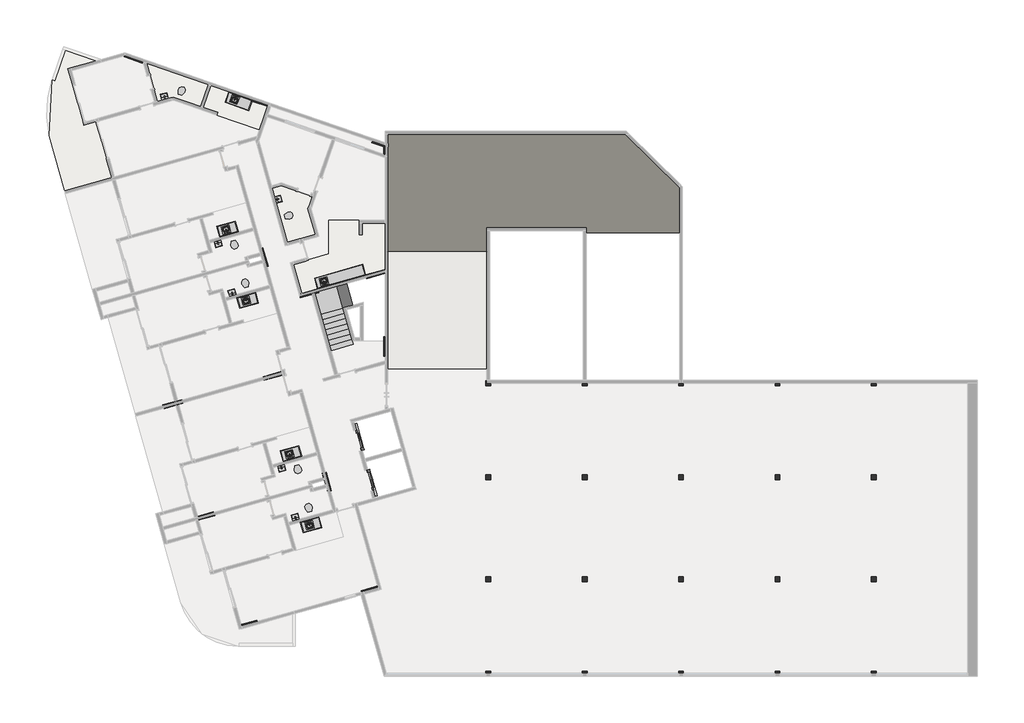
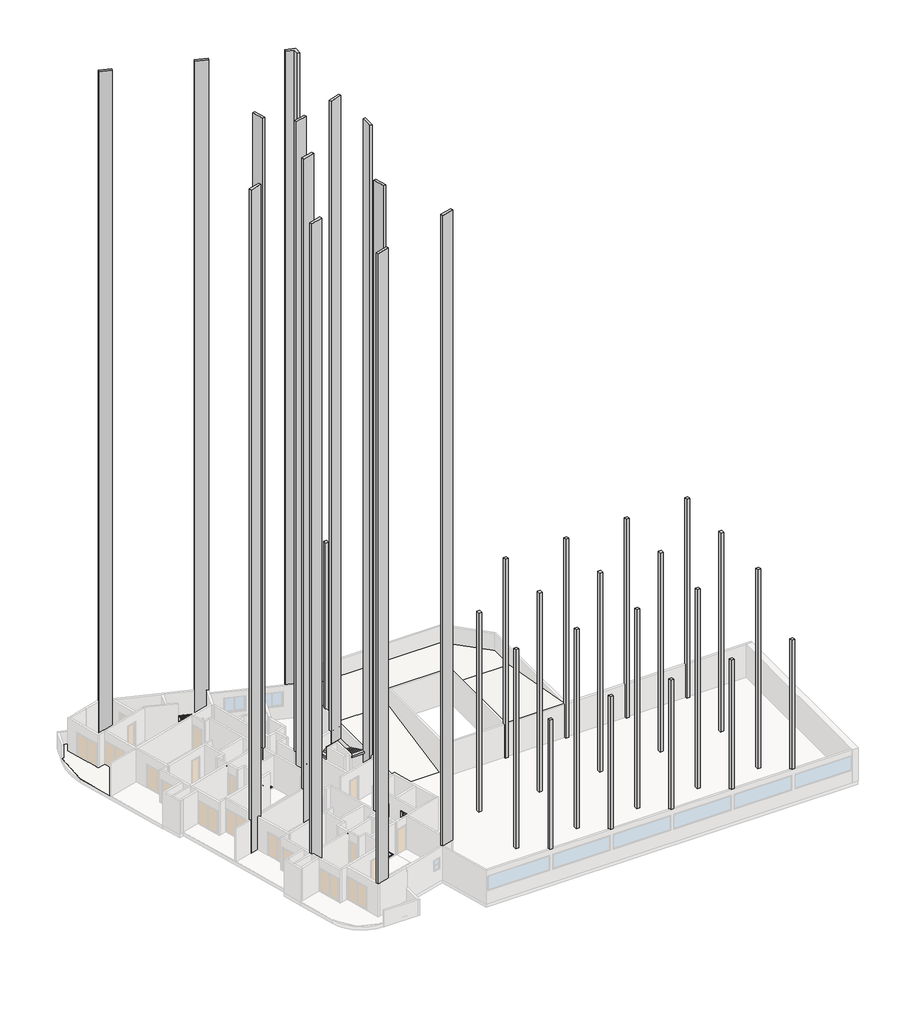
# One storey, part 4 of 4: 34 columns, 18 flow terminals, 8 proxies, 6 slabs, 1 stair flight.
"""IFC4 building model written with IfcOpenShell, lengths in millimetres."""

from ifc_helpers import new_model, si_unit, point, frame, frame_2d, origin, place, context, project, spatial, polyline, circle_curve, trimmed, segment, composite_curve, outline, extrude, faceted_brep, transform, mapped, element, save
from components import specialty_equipment_6c35da8b, specialty_equipment_77dfa124, rf_bancada_cozinha_rf_bancada_cozinha_340fef9f, rf_bancada_cozinha_rf_bancada_cozinha_cfb88ba1, rf_bancada_cozinha_rf_bancada_cozinha_2f873929, rf_bancada_cozinha_rf_bancada_cozinha_798ceddf, flow_terminal_cab7bae2, flow_terminal_3fb7dc42, flow_terminal_e42b9071, flow_terminal_c6e042c4, ap_01_creme_cr37_13e02e03, ap_01_creme_cr37_5ce6e54d

model = new_model("IFC4")

# Units and contexts
model_context = context("Model", 3, world=origin())
ifc_project = project(units=[si_unit("LENGTHUNIT", "METRE", prefix="MILLI")], contexts=[model_context])

# Site, building, storey
site = spatial("IfcSite", under=ifc_project)
building = spatial("IfcBuilding", under=site)
storey = spatial("IfcBuildingStorey", under=building, Name="Garagem 5", Elevation=36250.0)

# Proxies
placement = place(None, origin())
specialty_equipment_shape = specialty_equipment_6c35da8b(model_context)
element("IfcBuildingElementProxy", 1, Name="Porta do elevador : Porta do elevador", ObjectType="Porta do elevador : Porta do elevador", at=placement, inside=storey, context=model_context, shape_type="MappedRepresentation", body=[
    mapped(specialty_equipment_shape, transform((-76594.4337486, 15747.4543727, 36250.0), x_axis=(0.27176796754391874, -0.9623628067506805, 0.0), y_axis=(0.9623628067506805, 0.27176796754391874, 0.0), z_axis=(0.0, 0.0, 1.0))),
])
specialty_equipment_2_shape = specialty_equipment_77dfa124(model_context)
element("IfcBuildingElementProxy", 2, Name="Porta do elevador : Porta do elevador", ObjectType="Porta do elevador : Porta do elevador", at=placement, inside=storey, context=model_context, shape_type="MappedRepresentation", body=[
    mapped(specialty_equipment_2_shape, transform((-75942.1906265, 13437.7836365, 36250.0), x_axis=(-0.27176796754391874, 0.9623628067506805, 0.0), y_axis=(-0.9623628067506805, -0.27176796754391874, 0.0), z_axis=(0.0, 0.0, 1.0))),
])
rf_bancada_cozinha_rf_bancada_cozinha_shape = rf_bancada_cozinha_rf_bancada_cozinha_340fef9f(model_context)
element("IfcBuildingElementProxy", 3, Name="RF_Bancada Cozinha : RF_Bancada Cozinha", ObjectType="RF_Bancada Cozinha : RF_Bancada Cozinha", at=placement, inside=storey, context=model_context, shape_type="MappedRepresentation", body=[
    mapped(rf_bancada_cozinha_rf_bancada_cozinha_shape, transform((-82760.548019, 26451.5820971, 37000.0), x_axis=(-0.9623628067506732, -0.27176796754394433, 0.0), y_axis=(0.27176796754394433, -0.9623628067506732, 0.0), z_axis=(0.0, 0.0, 1.0))),
])
element("IfcBuildingElementProxy", 4, Name="RF_Bancada Cozinha : RF_Bancada Cozinha", ObjectType="RF_Bancada Cozinha : RF_Bancada Cozinha", at=placement, inside=storey, context=model_context, shape_type="MappedRepresentation", body=[
    mapped(rf_bancada_cozinha_rf_bancada_cozinha_shape, transform((-79472.1556117, 14806.9921354, 37000.0), x_axis=(-0.9623628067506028, -0.2717679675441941, 0.0), y_axis=(0.2717679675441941, -0.9623628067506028, 0.0), z_axis=(0.0, 0.0, 1.0))),
])
rf_bancada_cozinha_rf_bancada_cozinha_2_shape = rf_bancada_cozinha_rf_bancada_cozinha_cfb88ba1(model_context)
element("IfcBuildingElementProxy", 5, Name="RF_Bancada Cozinha : RF_Bancada Cozinha", ObjectType="RF_Bancada Cozinha : RF_Bancada Cozinha", at=placement, inside=storey, context=model_context, shape_type="MappedRepresentation", body=[
    mapped(rf_bancada_cozinha_rf_bancada_cozinha_2_shape, transform((-81877.3021245, 23323.9029751, 37000.0), x_axis=(-0.9623628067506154, -0.27176796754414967, 0.0), y_axis=(0.27176796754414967, -0.9623628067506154, 0.0), z_axis=(0.0, 0.0, 1.0))),
])
element("IfcBuildingElementProxy", 6, Name="RF_Bancada Cozinha : RF_Bancada Cozinha", ObjectType="RF_Bancada Cozinha : RF_Bancada Cozinha", at=placement, inside=storey, context=model_context, shape_type="MappedRepresentation", body=[
    mapped(rf_bancada_cozinha_rf_bancada_cozinha_2_shape, transform((-78588.9097172, 11679.3130134, 37000.0), x_axis=(-0.9623628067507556, -0.27176796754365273, 0.0), y_axis=(0.27176796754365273, -0.9623628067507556, 0.0), z_axis=(0.0, 0.0, 1.0))),
])
rf_bancada_cozinha_rf_bancada_cozinha_3_shape = rf_bancada_cozinha_rf_bancada_cozinha_2f873929(model_context)
element("IfcBuildingElementProxy", 7, Name="RF_Bancada Cozinha : RF_Bancada Cozinha", ObjectType="RF_Bancada Cozinha : RF_Bancada Cozinha", at=placement, inside=storey, context=model_context, shape_type="MappedRepresentation", body=[
    mapped(rf_bancada_cozinha_rf_bancada_cozinha_3_shape, transform((-82030.0326121, 33293.9830661, 37000.0), x_axis=(-0.9449109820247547, 0.32732741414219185, 0.0), y_axis=(-0.32732741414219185, -0.9449109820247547, 0.0), z_axis=(0.0, 0.0, 1.0))),
])
rf_bancada_cozinha_rf_bancada_cozinha_4_shape = rf_bancada_cozinha_rf_bancada_cozinha_798ceddf(model_context)
element("IfcBuildingElementProxy", 8, Name="RF_Bancada Cozinha : RF_Bancada Cozinha", ObjectType="RF_Bancada Cozinha : RF_Bancada Cozinha", at=placement, inside=storey, context=model_context, shape_type="MappedRepresentation", body=[
    mapped(rf_bancada_cozinha_rf_bancada_cozinha_4_shape, transform((-76157.6622331, 24197.9763092, 37000.0), x_axis=(-0.9623628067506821, -0.27176796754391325, 0.0), y_axis=(0.27176796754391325, -0.9623628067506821, 0.0), z_axis=(0.0, 0.0, 1.0))),
])

# Columns
element("IfcColumn", 9, ObjectType="M_Concrete-Rectangular-Column : 0.25m", at=placement, inside=storey, context=model_context, shape_type="SweptSolid", body=[
    extrude(outline(polyline([(-69675.8696428, 13852.5140353), (-69675.8696428, 13602.5140353), (-69925.8696428, 13602.5140353), (-69925.8696428, 13852.5140353), (-69675.8696428, 13852.5140353)])), frame((0.0, 0.0, 36250.0), z_axis=(0.0, 0.0, 1.0), x_axis=(1.0, 0.0, 0.0)), (0.0, 0.0, 1.0), 17400.0),
])
element("IfcColumn", 10, ObjectType="M_Concrete-Rectangular-Column : 0.25m", at=placement, inside=storey, context=model_context, shape_type="SweptSolid", body=[
    extrude(outline(polyline([(-59675.8696428, 13852.5140353), (-59675.8696428, 13602.5140353), (-59925.8696428, 13602.5140353), (-59925.8696428, 13852.5140353), (-59675.8696428, 13852.5140353)])), frame((0.0, 0.0, 36250.0), z_axis=(0.0, 0.0, 1.0), x_axis=(1.0, 0.0, 0.0)), (0.0, 0.0, 1.0), 17400.0),
])
element("IfcColumn", 11, ObjectType="M_Concrete-Rectangular-Column : 0.25m", at=placement, inside=storey, context=model_context, shape_type="SweptSolid", body=[
    extrude(outline(polyline([(-54675.8696428, 13852.5140353), (-54675.8696428, 13602.5140353), (-54925.8696428, 13602.5140353), (-54925.8696428, 13852.5140353), (-54675.8696428, 13852.5140353)])), frame((0.0, 0.0, 36250.0), z_axis=(0.0, 0.0, 1.0), x_axis=(1.0, 0.0, 0.0)), (0.0, 0.0, 1.0), 17400.0),
])
element("IfcColumn", 12, ObjectType="M_Concrete-Rectangular-Column : 0.25m", at=placement, inside=storey, context=model_context, shape_type="SweptSolid", body=[
    extrude(outline(polyline([(-49675.8696428, 13852.5140353), (-49675.8696428, 13602.5140353), (-49925.8696428, 13602.5140353), (-49925.8696428, 13852.5140353), (-49675.8696428, 13852.5140353)])), frame((0.0, 0.0, 36250.0), z_axis=(0.0, 0.0, 1.0), x_axis=(1.0, 0.0, 0.0)), (0.0, 0.0, 1.0), 17400.0),
])
element("IfcColumn", 13, ObjectType="M_Concrete-Rectangular-Column : 0.25m", at=placement, inside=storey, context=model_context, shape_type="SweptSolid", body=[
    extrude(outline(polyline([(-64675.8696428, 13852.5140353), (-64675.8696428, 13602.5140353), (-64925.8696428, 13602.5140353), (-64925.8696428, 13852.5140353), (-64675.8696428, 13852.5140353)])), frame((0.0, 0.0, 36250.0), z_axis=(0.0, 0.0, 1.0), x_axis=(1.0, 0.0, 0.0)), (0.0, 0.0, 1.0), 17400.0),
])
element("IfcColumn", 14, ObjectType="M_Concrete-Rectangular-Column : 0.25m", at=placement, inside=storey, context=model_context, shape_type="SweptSolid", body=[
    extrude(outline(polyline([(-69675.8696428, 8561.0495751), (-69675.8696428, 8311.0495751), (-69925.8696428, 8311.0495751), (-69925.8696428, 8561.0495751), (-69675.8696428, 8561.0495751)])), frame((0.0, 0.0, 36250.0), z_axis=(0.0, 0.0, 1.0), x_axis=(1.0, 0.0, 0.0)), (0.0, 0.0, 1.0), 17400.0),
])
element("IfcColumn", 15, ObjectType="M_Concrete-Rectangular-Column : 0.25m", at=placement, inside=storey, context=model_context, shape_type="SweptSolid", body=[
    extrude(outline(polyline([(-59675.8696428, 8561.0495751), (-59675.8696428, 8311.0495751), (-59925.8696428, 8311.0495751), (-59925.8696428, 8561.0495751), (-59675.8696428, 8561.0495751)])), frame((0.0, 0.0, 36250.0), z_axis=(0.0, 0.0, 1.0), x_axis=(1.0, 0.0, 0.0)), (0.0, 0.0, 1.0), 17400.0),
])
element("IfcColumn", 16, ObjectType="M_Concrete-Rectangular-Column : 0.25m", at=placement, inside=storey, context=model_context, shape_type="SweptSolid", body=[
    extrude(outline(polyline([(-54675.8696428, 8561.0495751), (-54675.8696428, 8311.0495751), (-54925.8696428, 8311.0495751), (-54925.8696428, 8561.0495751), (-54675.8696428, 8561.0495751)])), frame((0.0, 0.0, 36250.0), z_axis=(0.0, 0.0, 1.0), x_axis=(1.0, 0.0, 0.0)), (0.0, 0.0, 1.0), 17400.0),
])
element("IfcColumn", 17, ObjectType="M_Concrete-Rectangular-Column : 0.25m", at=placement, inside=storey, context=model_context, shape_type="SweptSolid", body=[
    extrude(outline(polyline([(-49675.8696428, 8561.0495751), (-49675.8696428, 8311.0495751), (-49925.8696428, 8311.0495751), (-49925.8696428, 8561.0495751), (-49675.8696428, 8561.0495751)])), frame((0.0, 0.0, 36250.0), z_axis=(0.0, 0.0, 1.0), x_axis=(1.0, 0.0, 0.0)), (0.0, 0.0, 1.0), 17400.0),
])
element("IfcColumn", 18, ObjectType="M_Concrete-Rectangular-Column : 0.25m", at=placement, inside=storey, context=model_context, shape_type="SweptSolid", body=[
    extrude(outline(polyline([(-64675.8696428, 8561.0495751), (-64675.8696428, 8311.0495751), (-64925.8696428, 8311.0495751), (-64925.8696428, 8561.0495751), (-64675.8696428, 8561.0495751)])), frame((0.0, 0.0, 36250.0), z_axis=(0.0, 0.0, 1.0), x_axis=(1.0, 0.0, 0.0)), (0.0, 0.0, 1.0), 17400.0),
])
element("IfcColumn", 19, ObjectType="M_Concrete-Rectangular-Column : 0.25m", at=placement, inside=storey, context=model_context, shape_type="SweptSolid", body=[
    extrude(outline(polyline([(-69675.8696428, 3676.0495751), (-69675.8696428, 3426.0495751), (-69925.8696428, 3426.0495751), (-69925.8696428, 3676.0495751), (-69675.8696428, 3676.0495751)])), frame((0.0, 0.0, 36250.0), z_axis=(0.0, 0.0, 1.0), x_axis=(1.0, 0.0, 0.0)), (0.0, 0.0, 1.0), 14200.0),
])
element("IfcColumn", 20, ObjectType="M_Concrete-Rectangular-Column : 0.25m", at=placement, inside=storey, context=model_context, shape_type="SweptSolid", body=[
    extrude(outline(polyline([(-59675.8696428, 3676.0495751), (-59675.8696428, 3426.0495751), (-59925.8696428, 3426.0495751), (-59925.8696428, 3676.0495751), (-59675.8696428, 3676.0495751)])), frame((0.0, 0.0, 36250.0), z_axis=(0.0, 0.0, 1.0), x_axis=(1.0, 0.0, 0.0)), (0.0, 0.0, 1.0), 14200.0),
])
element("IfcColumn", 21, ObjectType="M_Concrete-Rectangular-Column : 0.25m", at=placement, inside=storey, context=model_context, shape_type="SweptSolid", body=[
    extrude(outline(polyline([(-54675.8696428, 3676.0495751), (-54675.8696428, 3426.0495751), (-54925.8696428, 3426.0495751), (-54925.8696428, 3676.0495751), (-54675.8696428, 3676.0495751)])), frame((0.0, 0.0, 36250.0), z_axis=(0.0, 0.0, 1.0), x_axis=(1.0, 0.0, 0.0)), (0.0, 0.0, 1.0), 14200.0),
])
element("IfcColumn", 22, ObjectType="M_Concrete-Rectangular-Column : 0.25m", at=placement, inside=storey, context=model_context, shape_type="SweptSolid", body=[
    extrude(outline(polyline([(-49675.8696428, 3676.0495751), (-49675.8696428, 3426.0495751), (-49925.8696428, 3426.0495751), (-49925.8696428, 3676.0495751), (-49675.8696428, 3676.0495751)])), frame((0.0, 0.0, 36250.0), z_axis=(0.0, 0.0, 1.0), x_axis=(1.0, 0.0, 0.0)), (0.0, 0.0, 1.0), 14200.0),
])
element("IfcColumn", 23, ObjectType="M_Concrete-Rectangular-Column : 0.25m", at=placement, inside=storey, context=model_context, shape_type="SweptSolid", body=[
    extrude(outline(polyline([(-64675.8696428, 3676.0495751), (-64675.8696428, 3426.0495751), (-64925.8696428, 3426.0495751), (-64925.8696428, 3676.0495751), (-64675.8696428, 3676.0495751)])), frame((0.0, 0.0, 36250.0), z_axis=(0.0, 0.0, 1.0), x_axis=(1.0, 0.0, 0.0)), (0.0, 0.0, 1.0), 14500.0),
])
element("IfcColumn", 24, ObjectType="M_Concrete-Rectangular-Column : 0.25m", at=placement, inside=storey, context=model_context, shape_type="SweptSolid", body=[
    extrude(outline(polyline([(-74825.7805621, 26910.8243598), (-74825.7805621, 26660.8243598), (-75075.7805621, 26660.8243598), (-75075.7805621, 26910.8243598), (-74825.7805621, 26910.8243598)])), frame((0.0, 0.0, 36250.0), z_axis=(0.0, 0.0, 1.0), x_axis=(1.0, 0.0, 0.0)), (0.0, 0.0, 1.0), 17400.0),
])
element("IfcColumn", 25, ObjectType="M_Concrete-Rectangular-Column : 0.25m", at=placement, inside=storey, context=model_context, shape_type="SweptSolid", body=[
    extrude(outline(polyline([(-59675.8696428, 18723.8506069), (-59675.8696428, 18473.8506069), (-59925.8696428, 18473.8506069), (-59925.8696428, 18723.8506069), (-59675.8696428, 18723.8506069)])), frame((0.0, 0.0, 36250.0), z_axis=(0.0, 0.0, 1.0), x_axis=(1.0, 0.0, 0.0)), (0.0, 0.0, 1.0), 17400.0),
])
element("IfcColumn", 26, ObjectType="M_Concrete-Rectangular-Column : 0.25m", at=placement, inside=storey, context=model_context, shape_type="SweptSolid", body=[
    extrude(outline(polyline([(-54675.8696428, 18723.8506069), (-54675.8696428, 18473.8506069), (-54925.8696428, 18473.8506069), (-54925.8696428, 18723.8506069), (-54675.8696428, 18723.8506069)])), frame((0.0, 0.0, 36250.0), z_axis=(0.0, 0.0, 1.0), x_axis=(1.0, 0.0, 0.0)), (0.0, 0.0, 1.0), 17400.0),
])
element("IfcColumn", 27, ObjectType="M_Concrete-Rectangular-Column : 0.25m", at=placement, inside=storey, context=model_context, shape_type="SweptSolid", body=[
    extrude(outline(polyline([(-49675.8696428, 18723.8506069), (-49675.8696428, 18473.8506069), (-49925.8696428, 18473.8506069), (-49925.8696428, 18723.8506069), (-49675.8696428, 18723.8506069)])), frame((0.0, 0.0, 36250.0), z_axis=(0.0, 0.0, 1.0), x_axis=(1.0, 0.0, 0.0)), (0.0, 0.0, 1.0), 17400.0),
])
element("IfcColumn", 28, ObjectType="M_Concrete-Rectangular-Column : 0.25m", at=placement, inside=storey, context=model_context, shape_type="SweptSolid", body=[
    extrude(outline(polyline([(-69675.8696428, 18723.8506069), (-69675.8696428, 18473.8506069), (-69925.8696428, 18473.8506069), (-69925.8696428, 18723.8506069), (-69675.8696428, 18723.8506069)])), frame((0.0, 0.0, 36250.0), z_axis=(0.0, 0.0, 1.0), x_axis=(1.0, 0.0, 0.0)), (0.0, 0.0, 1.0), 17400.0),
])
element("IfcColumn", 29, ObjectType="M_Concrete-Rectangular-Column : 0.25m", at=placement, inside=storey, context=model_context, shape_type="SweptSolid", body=[
    extrude(outline(polyline([(-64675.8696428, 18723.8506069), (-64675.8696428, 18473.8506069), (-64925.8696428, 18473.8506069), (-64925.8696428, 18723.8506069), (-64675.8696428, 18723.8506069)])), frame((0.0, 0.0, 36250.0), z_axis=(0.0, 0.0, 1.0), x_axis=(1.0, 0.0, 0.0)), (0.0, 0.0, 1.0), 17400.0),
])
element("IfcColumn", 30, ObjectType="M_Concrete-Rectangular-Column : 1.00m x 0.20m", at=placement, inside=storey, context=model_context, shape_type="SweptSolid", body=[
    extrude(outline(polyline([(-81792.5205324, 6322.0415521), (-81738.1669389, 6129.5689908), (-82700.5297457, 5857.8010232), (-82754.8833392, 6050.2735846), (-81792.5205324, 6322.0415521)])), frame((0.0, 0.0, 36250.0), z_axis=(0.0, 0.0, 1.0), x_axis=(1.0, 0.0, 0.0)), (0.0, 0.0, 1.0), 58000.0),
])
element("IfcColumn", 31, ObjectType="M_Concrete-Rectangular-Column : 1.00m x 0.20m", at=placement, inside=storey, context=model_context, shape_type="SweptSolid", body=[
    extrude(outline(polyline([(-84047.5606142, 11930.2719434), (-83993.2070207, 11737.799382), (-84955.5698274, 11466.0314145), (-85009.9234209, 11658.5039758), (-84047.5606142, 11930.2719434)])), frame((0.0, 0.0, 36250.0), z_axis=(0.0, 0.0, 1.0), x_axis=(1.0, 0.0, 0.0)), (0.0, 0.0, 1.0), 58000.0),
])
element("IfcColumn", 32, ObjectType="M_Concrete-Rectangular-Column : 1.00m x 0.20m", at=placement, inside=storey, context=model_context, shape_type="SweptSolid", body=[
    extrude(outline(polyline([(-85706.1922599, 17748.4904047), (-85651.8386664, 17556.0178434), (-86614.2014732, 17284.2498758), (-86668.5550667, 17476.7224372), (-85706.1922599, 17748.4904047)])), frame((0.0, 0.0, 36250.0), z_axis=(0.0, 0.0, 1.0), x_axis=(1.0, 0.0, 0.0)), (0.0, 0.0, 1.0), 58000.0),
])
element("IfcColumn", 33, ObjectType="M_Concrete-Rectangular-Column : 1.00m x 0.20m", at=placement, inside=storey, context=model_context, shape_type="SweptSolid", body=[
    extrude(outline(polyline([(-78649.3072438, 23494.6814579), (-78594.9536503, 23302.2088965), (-79557.3164571, 23030.440929), (-79611.6700506, 23222.9134903), (-78649.3072438, 23494.6814579)])), frame((0.0, 0.0, 36250.0), z_axis=(0.0, 0.0, 1.0), x_axis=(1.0, 0.0, 0.0)), (0.0, 0.0, 1.0), 58000.0),
])
element("IfcColumn", 34, ObjectType="M_Concrete-Rectangular-Column : 1.00m x 0.20m", at=placement, inside=storey, context=model_context, shape_type="SweptSolid", body=[
    extrude(outline(polyline([(-75202.1818124, 24494.1156272), (-75147.8282189, 24301.6430659), (-76110.1910256, 24029.8750983), (-76164.5446191, 24222.3476597), (-75202.1818124, 24494.1156272)])), frame((0.0, 0.0, 36250.0), z_axis=(0.0, 0.0, 1.0), x_axis=(1.0, 0.0, 0.0)), (0.0, 0.0, 1.0), 58000.0),
])
element("IfcColumn", 35, ObjectType="M_Concrete-Rectangular-Column : 1.00m x 0.20m", at=placement, inside=storey, context=model_context, shape_type="SweptSolid", body=[
    extrude(outline(polyline([(-80509.4331035, 19216.0374294), (-80455.07951, 19023.5648681), (-81417.4423167, 18751.7969006), (-81471.7959102, 18944.2694619), (-80509.4331035, 19216.0374294)])), frame((0.0, 0.0, 36250.0), z_axis=(0.0, 0.0, 1.0), x_axis=(1.0, 0.0, 0.0)), (0.0, 0.0, 1.0), 58000.0),
])
element("IfcColumn", 36, ObjectType="M_Concrete-Rectangular-Column : 1.00m x 0.20m", at=placement, inside=storey, context=model_context, shape_type="SweptSolid", body=[
    extrude(outline(polyline([(-75417.8575242, 8122.2245989), (-75363.5039307, 7929.7520375), (-76325.8667374, 7657.98407), (-76380.2203309, 7850.4566313), (-75417.8575242, 8122.2245989)])), frame((0.0, 0.0, 36250.0), z_axis=(0.0, 0.0, 1.0), x_axis=(1.0, 0.0, 0.0)), (0.0, 0.0, 1.0), 58000.0),
])
element("IfcColumn", 37, ObjectType="M_Concrete-Rectangular-Column : 1.00m x 0.20m", at=placement, inside=storey, context=model_context, shape_type="SweptSolid", body=[
    extrude(outline(polyline([(-78396.5264028, 13941.7483518), (-78204.0538415, 13996.1019453), (-77932.2858739, 13033.7391386), (-78124.7584353, 12979.3855451), (-78396.5264028, 13941.7483518)])), frame((0.0, 0.0, 36250.0), z_axis=(0.0, 0.0, 1.0), x_axis=(1.0, 0.0, 0.0)), (0.0, 0.0, 1.0), 58000.0),
])
element("IfcColumn", 38, ObjectType="M_Concrete-Rectangular-Column : 1.00m x 0.20m", at=placement, inside=storey, context=model_context, shape_type="SweptSolid", body=[
    extrude(outline(polyline([(-75215.7805621, 21009.8710626), (-75015.7805621, 21009.8710626), (-75015.7805621, 20009.8710626), (-75215.7805621, 20009.8710626), (-75215.7805621, 21009.8710626)])), frame((0.0, 0.0, 36250.0), z_axis=(0.0, 0.0, 1.0), x_axis=(1.0, 0.0, 0.0)), (0.0, 0.0, 1.0), 58000.0),
])
element("IfcColumn", 39, ObjectType="M_Concrete-Rectangular-Column : 1.00m x 0.20m", at=placement, inside=storey, context=model_context, shape_type="SweptSolid", body=[
    extrude(outline(polyline([(-81684.9188101, 25586.3383135), (-81492.4462487, 25640.691907), (-81220.6782812, 24678.3291003), (-81413.1508425, 24623.9755068), (-81684.9188101, 25586.3383135)])), frame((0.0, 0.0, 36250.0), z_axis=(0.0, 0.0, 1.0), x_axis=(1.0, 0.0, 0.0)), (0.0, 0.0, 1.0), 58000.0),
])
element("IfcColumn", 40, ObjectType="M_Concrete-Rectangular-Column : 1.00m x 0.20m", at=placement, inside=storey, context=model_context, shape_type="SweptSolid", body=[
    extrude(outline(polyline([(-87673.5341885, 35391.8238314), (-87738.9996713, 35202.841635), (-88683.9106533, 35530.1690491), (-88618.4451705, 35719.1512456), (-87673.5341885, 35391.8238314)])), frame((0.0, 0.0, 36250.0), z_axis=(0.0, 0.0, 1.0), x_axis=(1.0, 0.0, 0.0)), (0.0, 0.0, 1.0), 58000.0),
])
element("IfcColumn", 41, ObjectType="M_Concrete-Rectangular-Column : 1.00m x 0.20m", at=placement, inside=storey, context=model_context, shape_type="SweptSolid", body=[
    extrude(outline(polyline([(-81040.9324292, 33094.2186345), (-81106.397912, 32905.2364381), (-82051.3088941, 33232.5638523), (-81985.8434112, 33421.5460487), (-81040.9324292, 33094.2186345)])), frame((0.0, 0.0, 36250.0), z_axis=(0.0, 0.0, 1.0), x_axis=(1.0, 0.0, 0.0)), (0.0, 0.0, 1.0), 58000.0),
])
element("IfcColumn", 42, ObjectType="PILAR 01 : 300x300mm", at=placement, inside=storey, context=model_context, shape_type="SweptSolid", body=[
    extrude(outline(polyline([(-75771.7446678, 31273.6239033), (-75015.8158822, 31011.761972), (-75015.7805621, 30409.3928276), (-75215.7805617, 30409.3811006), (-75215.807534, 30869.3810998), (-75837.2101506, 31084.6417069), (-75771.7446678, 31273.6239033)])), frame((0.0, 0.0, 36250.0), z_axis=(0.0, 0.0, 1.0), x_axis=(1.0, 0.0, 0.0)), (0.0, 0.0, 1.0), 58000.0),
])

# Flow terminals
flow_terminal_shape = flow_terminal_cab7bae2(model_context)
element("IfcFlowTerminal", 43, ObjectType="RF_Pias : Pia da Bancada", at=placement, inside=storey, context=model_context, shape_type="MappedRepresentation", body=[
    mapped(flow_terminal_shape, transform((-83380.5102831, 26570.4992214, 36102.9), x_axis=(-0.9623628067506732, -0.27176796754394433, 0.0), y_axis=(0.27176796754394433, -0.9623628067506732, 0.0), z_axis=(0.0, 0.0, 1.0))),
])
element("IfcFlowTerminal", 44, ObjectType="RF_Pias : Pia da Bancada", at=placement, inside=storey, context=model_context, shape_type="MappedRepresentation", body=[
    mapped(flow_terminal_shape, transform((-80092.1178758, 14925.9092597, 36102.9), x_axis=(-0.9623628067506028, -0.2717679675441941, 0.0), y_axis=(0.2717679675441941, -0.9623628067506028, 0.0), z_axis=(0.0, 0.0, 1.0))),
])
element("IfcFlowTerminal", 45, ObjectType="RF_Pias : Pia da Bancada", at=placement, inside=storey, context=model_context, shape_type="MappedRepresentation", body=[
    mapped(flow_terminal_shape, transform((-78306.8185143, 23885.0542694, 36102.9), x_axis=(-0.9623628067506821, -0.27176796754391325, 0.0), y_axis=(0.27176796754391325, -0.9623628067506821, 0.0), z_axis=(0.0, 0.0, 1.0))),
])
flow_terminal_2_shape = flow_terminal_3fb7dc42(model_context)
element("IfcFlowTerminal", 46, ObjectType="Deca_Cuba de Apoio Retangular_L7300 : L.7300.17_Branco Gelo GE17", at=placement, inside=storey, context=model_context, shape_type="MappedRepresentation", body=[
    mapped(flow_terminal_2_shape, transform((-83090.0822283, 23308.7374016, 37000.0), x_axis=(-0.9623628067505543, -0.2717679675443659, 0.0), y_axis=(0.2717679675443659, -0.9623628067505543, 0.0), z_axis=(0.0, 0.0, 1.0))),
])
element("IfcFlowTerminal", 47, ObjectType="Deca_Cuba de Apoio Retangular_L7300 : L.7300.17_Branco Gelo GE17", at=placement, inside=storey, context=model_context, shape_type="MappedRepresentation", body=[
    mapped(flow_terminal_2_shape, transform((-79801.689821, 11664.1474399, 37000.0), x_axis=(-0.9623628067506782, -0.2717679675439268, 0.0), y_axis=(0.2717679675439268, -0.9623628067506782, 0.0), z_axis=(0.0, 0.0, 1.0))),
])
element("IfcFlowTerminal", 48, ObjectType="Deca_Cuba de Apoio Retangular_L7300 : L.7300.17_Branco Gelo GE17", at=placement, inside=storey, context=model_context, shape_type="MappedRepresentation", body=[
    mapped(flow_terminal_2_shape, transform((-80677.0991462, 28154.8020678, 37000.0), x_axis=(-0.2717679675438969, 0.9623628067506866, 0.0), y_axis=(-0.9623628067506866, -0.2717679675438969, 0.0), z_axis=(0.0, 0.0, 1.0))),
])
element("IfcFlowTerminal", 49, ObjectType="Deca_Cuba de Apoio Retangular_L7300 : L.7300.17_Branco Gelo GE17", at=placement, inside=storey, context=model_context, shape_type="MappedRepresentation", body=[
    mapped(flow_terminal_2_shape, transform((-86597.4204814, 33488.7004496, 37000.0), x_axis=(-0.9623628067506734, -0.27176796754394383, 0.0), y_axis=(0.27176796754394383, -0.9623628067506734, 0.0), z_axis=(0.0, 0.0, 1.0))),
])
flow_terminal_3_shape = flow_terminal_e42b9071(model_context)
element("IfcFlowTerminal", 50, ObjectType="Deca_Cuba de Apoio Retangular_L7300 : L.7300.17_Branco Gelo GE17", at=placement, inside=storey, context=model_context, shape_type="MappedRepresentation", body=[
    mapped(flow_terminal_3_shape, transform((-83802.1143033, 25830.1279553, 37000.0), x_axis=(-0.9623628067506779, -0.2717679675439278, 0.0), y_axis=(0.2717679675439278, -0.9623628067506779, 0.0), z_axis=(0.0, 0.0, 1.0))),
])
element("IfcFlowTerminal", 51, ObjectType="Deca_Cuba de Apoio Retangular_L7300 : L.7300.17_Branco Gelo GE17", at=placement, inside=storey, context=model_context, shape_type="MappedRepresentation", body=[
    mapped(flow_terminal_3_shape, transform((-80513.721896, 14185.5379936, 37000.0), x_axis=(-0.962362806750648, -0.27176796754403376, 0.0), y_axis=(0.27176796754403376, -0.962362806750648, 0.0), z_axis=(0.0, 0.0, 1.0))),
])
flow_terminal_4_shape = flow_terminal_c6e042c4(model_context)
element("IfcFlowTerminal", 52, ObjectType="RF_Pias : Pia da Bancada", at=placement, inside=storey, context=model_context, shape_type="MappedRepresentation", body=[
    mapped(flow_terminal_4_shape, transform((-82343.483233, 22898.2626745, 36102.9), x_axis=(-0.9623628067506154, -0.27176796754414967, 0.0), y_axis=(0.27176796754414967, -0.9623628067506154, 0.0), z_axis=(0.0, 0.0, 1.0))),
])
element("IfcFlowTerminal", 53, ObjectType="RF_Pias : Pia da Bancada", at=placement, inside=storey, context=model_context, shape_type="MappedRepresentation", body=[
    mapped(flow_terminal_4_shape, transform((-79055.0908257, 11253.6727129, 36102.9), x_axis=(-0.9623628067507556, -0.27176796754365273, 0.0), y_axis=(0.27176796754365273, -0.9623628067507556, 0.0), z_axis=(0.0, 0.0, 1.0))),
])
element("IfcFlowTerminal", 54, ObjectType="RF_Pias : Pia da Bancada", at=placement, inside=storey, context=model_context, shape_type="MappedRepresentation", body=[
    mapped(flow_terminal_4_shape, transform((-82939.3392028, 33309.5545572, 36102.9), x_axis=(-0.9449109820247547, 0.32732741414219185, 0.0), y_axis=(-0.32732741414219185, -0.9449109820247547, 0.0), z_axis=(0.0, 0.0, 1.0))),
])
ap_01_creme_cr37_shape = ap_01_creme_cr37_13e02e03(model_context)
element("IfcFlowTerminal", 55, ObjectType="Deca_Shared_Assento_P.900 : AP.01_Creme CR37", at=placement, inside=storey, context=model_context, shape_type="MappedRepresentation", body=[
    mapped(ap_01_creme_cr37_shape, transform((-83017.5301151, 25983.4740486, 36637.8723674), x_axis=(0.9623628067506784, 0.2717679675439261, 0.0), y_axis=(0.0, 0.0, 1.0), z_axis=(0.2717679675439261, -0.9623628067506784, 0.0))),
])
element("IfcFlowTerminal", 56, ObjectType="Deca_Shared_Assento_P.900 : AP.01_Creme CR37", at=placement, inside=storey, context=model_context, shape_type="MappedRepresentation", body=[
    mapped(ap_01_creme_cr37_shape, transform((-79729.1377078, 14338.8840869, 36637.8723674), x_axis=(0.962362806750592, 0.2717679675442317, 0.0), y_axis=(0.0, 0.0, 1.0), z_axis=(0.2717679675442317, -0.962362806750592, 0.0))),
])
element("IfcFlowTerminal", 57, ObjectType="Deca_Shared_Assento_P.900 : AP.01_Creme CR37", at=placement, inside=storey, context=model_context, shape_type="MappedRepresentation", body=[
    mapped(ap_01_creme_cr37_shape, transform((-80349.5164684, 27236.3600819, 36637.8723674), x_axis=(-0.271767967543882, 0.9623628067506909, 0.0), y_axis=(0.0, 0.0, 1.0), z_axis=(0.9623628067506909, 0.271767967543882, 0.0))),
])
element("IfcFlowTerminal", 58, ObjectType="Deca_Shared_Assento_P.900 : AP.01_Creme CR37", at=placement, inside=storey, context=model_context, shape_type="MappedRepresentation", body=[
    mapped(ap_01_creme_cr37_shape, transform((-85777.8760768, 33566.4131555, 36637.8723674), x_axis=(-0.9449109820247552, 0.3273274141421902, 0.0), y_axis=(0.0, 0.0, 1.0000000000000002), z_axis=(0.3273274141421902, 0.9449109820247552, 0.0))),
])
ap_01_creme_cr37_2_shape = ap_01_creme_cr37_5ce6e54d(model_context)
element("IfcFlowTerminal", 59, ObjectType="Deca_Shared_Assento_P.900 : AP.01_Creme CR37", at=placement, inside=storey, context=model_context, shape_type="MappedRepresentation", body=[
    mapped(ap_01_creme_cr37_2_shape, transform((-82341.1813229, 23588.4422577, 36637.8723674), x_axis=(0.9623628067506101, 0.27176796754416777, 0.0), y_axis=(0.0, 0.0, -1.0), z_axis=(-0.27176796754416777, 0.9623628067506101, 0.0))),
])
element("IfcFlowTerminal", 60, ObjectType="Deca_Shared_Assento_P.900 : AP.01_Creme CR37", at=placement, inside=storey, context=model_context, shape_type="MappedRepresentation", body=[
    mapped(ap_01_creme_cr37_2_shape, transform((-79052.7889156, 11943.852296, 36637.8723674), x_axis=(0.9623628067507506, 0.2717679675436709, 0.0), y_axis=(0.0, 0.0, -1.0000000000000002), z_axis=(-0.2717679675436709, 0.9623628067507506, 0.0))),
])

# Slabs
element("IfcSlab", 61, ObjectType="TZ_Piso de Áreas Molhadas", at=placement, inside=storey, context=model_context, shape_type="SweptSolid", body=[
    extrude(outline(composite_curve([segment(polyline([(-90765.4571774, 31984.341749), (-90143.7425806, 32159.9118263), (-89328.438678, 29272.823406), (-91766.0080564, 28584.4621444), (-92573.2320087, 31442.9384962)]), True, "CONTINUOUS"), segment(trimmed(circle_curve(frame_2d((-87414.5556743, 32622.5665107)), 5291.829908), [point((-92573.2320087, 31442.9384962))], [point((-92422.0860726, 34333.7366032))], False, "CARTESIAN"), True, "CONTINUOUS"), segment(polyline([(-92422.0860726, 34333.7366032), (-92280.2794148, 34284.6132387), (-91729.7010481, 35873.9929322), (-90151.0501028, 35327.1311202), (-91594.3494784, 34919.5483093), (-90765.4571774, 31984.341749)]), True, "CONTINUOUS")], self_intersect=False)), frame((0.0, 0.0, 36250.0), z_axis=(0.0, 0.0, 1.0), x_axis=(1.0, 0.0, 0.0)), (0.0, 0.0, 1.0), 20.0),
])
element("IfcSlab", 62, ObjectType="TZ_Piso de Áreas Molhadas", at=placement, inside=storey, context=model_context, shape_type="SweptSolid", body=[
    extrude(outline(polyline([(-78926.5637691, 28284.9851582), (-79146.9727346, 27648.7205404), (-78771.1333302, 26317.8283554), (-80214.6775403, 25910.176404), (-81004.3851492, 28706.6252933), (-80530.2499593, 28840.5194505), (-78926.5637691, 28284.9851582)])), frame((0.0, 0.0, 36250.0), z_axis=(0.0, 0.0, 1.0), x_axis=(1.0, 0.0, 0.0)), (0.0, 0.0, 1.0), 20.0),
])
element("IfcSlab", 63, ObjectType="TZ_Piso de Áreas Molhadas", at=placement, inside=storey, context=model_context, shape_type="SweptSolid", body=[
    extrude(outline(polyline([(-78070.9150345, 27060.8243598), (-76493.6479314, 27060.8243598), (-76493.6479314, 26310.8243598), (-76343.6479314, 26310.8243598), (-76343.6479314, 26910.8243598), (-75147.8282189, 26910.8243598), (-75147.8282189, 24483.4871675), (-79467.3156296, 23263.6786855), (-79888.5559793, 24755.3410359), (-79127.7601479, 24970.1871785), (-79141.3485461, 25018.3053183), (-78070.9150345, 25320.5920836), (-78070.9150345, 27060.8243598)])), frame((0.0, 0.0, 36250.0), z_axis=(0.0, 0.0, 1.0), x_axis=(1.0, 0.0, 0.0)), (0.0, 0.0, 1.0), 20.0),
])
element("IfcSlab", 64, ObjectType="TZ_Piso de Áreas Molhadas", at=placement, inside=storey, context=model_context, shape_type="SweptSolid", body=[
    extrude(outline(polyline([(-84719.4810559, 32955.6762822), (-86137.8721095, 33447.0223292), (-86956.7711455, 33215.7680402), (-87515.4733556, 35194.1992432), (-84326.6881589, 34089.5694606), (-84719.4810559, 32955.6762822)])), frame((0.0, 0.0, 36250.0), z_axis=(0.0, 0.0, 1.0), x_axis=(1.0, 0.0, 0.0)), (0.0, 0.0, 1.0), 20.0),
])
element("IfcSlab", 65, ObjectType="TZ_Piso de Áreas Molhadas", at=placement, inside=storey, context=model_context, shape_type="SweptSolid", body=[
    extrude(outline(polyline([(-84577.7444086, 32906.57717), (-84184.9515116, 34040.4703485), (-81226.8582774, 33015.7547641), (-81668.7502865, 31740.1249383), (-83870.9147351, 32502.9785914), (-83821.815623, 32644.7152387), (-84577.7444086, 32906.57717)])), frame((0.0, 0.0, 36250.0), z_axis=(0.0, 0.0, 1.0), x_axis=(1.0, 0.0, 0.0)), (0.0, 0.0, 1.0), 20.0),
])
element("IfcSlab", 66, ObjectType="TZ_Rampa", at=placement, inside=storey, context=model_context, shape_type="Brep", body=[
    faceted_brep([(-59878.6137209, 28729.2690021, 37400.0), (-59878.6137209, 28729.2690021, 37700.0), (-59878.6137209, 26673.5266097, 37700.0), (-59878.6137209, 18752.5140353, 39150.0), (-59878.6137209, 18752.5140353, 38850.0), (-59878.6137209, 26673.5266097, 37400.0), (-64728.6137209, 18752.5140353, 39150.0), (-64728.6137209, 18752.5140353, 38850.0), (-64728.6137209, 26673.5266097, 37700.0), (-64728.6137209, 26673.5266097, 37400.0), (-69878.6137209, 26673.5266097, 37700.0), (-69878.6137209, 26673.5266097, 37400.0), (-69878.6137209, 19352.5140353, 36250.0), (-69878.6137209, 19352.5140353, 35950.0), (-74997.8282189, 19352.5140353, 36250.0), (-74997.8282189, 19352.5140353, 35950.0), (-74997.8282189, 26673.5266097, 37700.0), (-74997.8282189, 31523.8506069, 37700.0), (-74997.8282189, 31523.8506069, 37400.0), (-74997.8282189, 26673.5266097, 37400.0), (-62701.4234226, 31523.8506069, 37700.0), (-62701.4234226, 31523.8506069, 37400.0)], [[[0, 1, 2, 3, 4, 5]], [[4, 3, 6, 7]], [[7, 6, 8, 9]], [[9, 8, 10, 11]], [[11, 10, 12, 13]], [[13, 12, 14, 15]], [[15, 14, 16, 17, 18, 19]], [[18, 17, 20, 21]], [[21, 20, 1, 0]], [[6, 3, 2, 8]], [[7, 9, 5, 4]], [[1, 20, 17, 16, 10, 8, 2]], [[0, 5, 9, 11, 19, 18, 21]], [[14, 12, 10, 16]], [[15, 19, 11, 13]]]),
])

# Stair flight
element("IfcStairFlight", 67, ObjectType="Profundidade de 150mm", at=placement, inside=storey, context=model_context, shape_type="Brep", body=[
    faceted_brep([(-78029.0944782, 20560.1246789, 36388.0952381), (-77952.7808761, 20290.7249124, 36388.0952381), (-76802.2714069, 20616.6328483, 36388.0952381), (-76878.3664628, 20886.0945229, 36388.0952381), (-78029.0944782, 20560.1246789, 36250.0), (-77952.7808761, 20290.7249124, 36250.0), (-76802.2714069, 20616.6328483, 36250.0), (-76878.3664628, 20886.0945229, 36250.0), (-78105.4080802, 20829.5244453, 36526.1904762), (-78029.0944782, 20560.1246789, 36526.1904762), (-76878.3664628, 20886.0945229, 36526.1904762), (-76954.4615188, 21155.5561975, 36526.1904762), (-78105.4080802, 20829.5244453, 36358.939228), (-78045.2065482, 20617.0029783, 36250.0), (-76894.4323913, 20942.985893, 36250.0), (-76954.4615188, 21155.5561975, 36358.939228), (-78181.7216823, 21098.9242117, 36664.2857143), (-78105.4080802, 20829.5244453, 36664.2857143), (-76954.4615188, 21155.5561975, 36664.2857143), (-77030.5565747, 21425.017872, 36664.2857143), (-78181.7216823, 21098.9242117, 36497.0344661), (-77030.5565747, 21425.017872, 36497.0344661), (-78258.0352843, 21368.3239781, 36802.3809524), (-78181.7216823, 21098.9242117, 36802.3809524), (-77030.5565747, 21425.017872, 36802.3809524), (-77106.6516307, 21694.4795466, 36802.3809524), (-78258.0352843, 21368.3239781, 36635.1297042), (-77106.6516307, 21694.4795466, 36635.1297042), (-78334.3488864, 21637.7237445, 36940.4761905), (-78258.0352843, 21368.3239781, 36940.4761905), (-77106.6516307, 21694.4795466, 36940.4761905), (-77182.7466866, 21963.9412211, 36940.4761905), (-78334.3488864, 21637.7237445, 36773.2249423), (-77182.7466866, 21963.9412211, 36773.2249423), (-78410.6624885, 21907.1235109, 37078.5714286), (-78334.3488864, 21637.7237445, 37078.5714286), (-77182.7466866, 21963.9412211, 37078.5714286), (-77258.8417426, 22233.4028957, 37078.5714286), (-78410.6624885, 21907.1235109, 36911.3201804), (-77258.8417426, 22233.4028957, 36911.3201804), (-78486.9760905, 22176.5232773, 37216.6666667), (-78410.6624885, 21907.1235109, 37216.6666667), (-77258.8417426, 22233.4028957, 37216.6666667), (-77334.9367985, 22502.8645702, 37216.6666667), (-78486.9760905, 22176.5232773, 37049.4154185), (-77334.9367985, 22502.8645702, 37049.4154185), (-77650.6473278, 23620.8332322, 37354.7619048), (-78803.8582924, 23295.1703972, 37354.7619048), (-78572.8230038, 22479.5772253, 37354.7619048), (-78486.9760905, 22176.5232773, 37354.7619048), (-77334.9367985, 22502.8645702, 37354.7619048), (-77337.6544782, 22512.4881983, 37354.7619048), (-77650.6473278, 23620.8332322, 37204.7619048), (-78803.8582924, 23295.1703972, 37204.7619048), (-78572.8230038, 22479.5772253, 37204.7619048), (-77420.5378643, 22805.9881601, 37204.7619048), (-77337.6544782, 22512.4881983, 37204.7619048), (-77650.6473278, 23620.8332322, 37492.8571429), (-77337.6544782, 22512.4881983, 37492.8571429), (-77303.5536842, 22522.118146, 37492.8571429), (-77083.6709973, 22584.2122653, 37492.8571429), (-77396.6638468, 23692.5572992, 37492.8571429), (-77616.5465338, 23630.4631799, 37492.8571429), (-77396.6638468, 23692.5572992, 37319.0904432), (-77616.5465338, 23630.4631799, 37204.7619048), (-77303.5536842, 22522.118146, 37204.7619048), (-77083.6709973, 22584.2122653, 37319.0904432), (-77127.202261, 23768.6523301, 37630.952381), (-77396.6638468, 23692.5572992, 37630.952381), (-77083.6709973, 22584.2122653, 37630.952381), (-76814.2094114, 22660.3072962, 37630.952381), (-77127.202261, 23768.6523301, 37459.1976509), (-76814.2094114, 22660.3072962, 37459.1976509), (-76857.7406751, 23844.747361, 37769.047619), (-77127.202261, 23768.6523301, 37769.047619), (-76814.2094114, 22660.3072962, 37769.047619), (-76544.7478255, 22736.4023271, 37769.047619), (-76857.7406751, 23844.747361, 37599.3048586), (-76544.7478255, 22736.4023271, 37599.3048586), (-76588.2790892, 23920.842392, 37907.1428571), (-76857.7406751, 23844.747361, 37907.1428571), (-76544.7478255, 22736.4023271, 37907.1428571), (-76275.2862396, 22812.497358, 37907.1428571), (-76588.2790892, 23920.842392, 37739.4120663), (-75975.593386, 22897.1295956, 37895.2380952), (-76275.2862396, 22812.497358, 37895.2380952), (-75147.8282189, 22779.1154254, 38045.2380952), (-75147.8282189, 24327.6207947, 38045.2380952), (-76288.5862355, 24005.4746296, 38045.2380952), (-76588.2790892, 23920.842392, 38045.2380952), (-76275.2862396, 22812.497358, 38045.2380952), (-76275.2862396, 22779.1154254, 38045.2380952), (-75147.8282189, 22779.1154254, 37895.2380952), (-75147.8282189, 24327.6207947, 37895.2380952), (-76288.5862355, 24005.4746296, 37895.2380952), (-76275.2862396, 22779.1154254, 37895.2380952), (-75147.8282189, 22779.1154254, 38183.3333333), (-76275.2862396, 22779.1154254, 38183.3333333), (-76275.2862396, 22744.1370326, 38183.3333333), (-76275.2862396, 22499.1154254, 38183.3333333), (-75147.8282189, 22499.1154254, 38183.3333333), (-75147.8282189, 22744.1370326, 38183.3333333), (-75147.8282189, 22499.1154254, 38016.0820852), (-75147.8282189, 22744.1370326, 37895.2380952), (-76275.2862396, 22744.1370326, 37895.2380952), (-76275.2862396, 22499.1154254, 38016.0820852), (-75147.8282189, 22219.1154254, 38321.4285714), (-75147.8282189, 22499.1154254, 38321.4285714), (-76275.2862396, 22499.1154254, 38321.4285714), (-76275.2862396, 22219.1154254, 38321.4285714), (-75147.8282189, 22219.1154254, 38154.1773233), (-76275.2862396, 22219.1154254, 38154.1773233), (-75147.8282189, 21939.1154254, 38459.5238095), (-75147.8282189, 22219.1154254, 38459.5238095), (-76275.2862396, 22219.1154254, 38459.5238095), (-76275.2862396, 21939.1154254, 38459.5238095), (-75147.8282189, 21939.1154254, 38292.2725614), (-76275.2862396, 21939.1154254, 38292.2725614), (-75147.8282189, 21659.1154254, 38597.6190476), (-75147.8282189, 21939.1154254, 38597.6190476), (-76275.2862396, 21939.1154254, 38597.6190476), (-76275.2862396, 21659.1154254, 38597.6190476), (-75147.8282189, 21659.1154254, 38430.3677995), (-76275.2862396, 21659.1154254, 38430.3677995), (-75147.8282189, 21379.1154254, 38735.7142857), (-75147.8282189, 21659.1154254, 38735.7142857), (-76275.2862396, 21659.1154254, 38735.7142857), (-76275.2862396, 21379.1154254, 38735.7142857), (-75147.8282189, 21379.1154254, 38568.4630376), (-76275.2862396, 21379.1154254, 38568.4630376), (-75147.8282189, 21099.1154254, 38873.8095238), (-75147.8282189, 21379.1154254, 38873.8095238), (-76275.2862396, 21379.1154254, 38873.8095238), (-76275.2862396, 21099.1154254, 38873.8095238), (-75147.8282189, 21099.1154254, 38706.5582757), (-76275.2862396, 21099.1154254, 38706.5582757), (-75147.8282189, 20819.1154254, 39011.9047619), (-75147.8282189, 21099.1154254, 39011.9047619), (-76275.2862396, 21099.1154254, 39011.9047619), (-76275.2862396, 20819.1154254, 39011.9047619), (-75147.8282189, 20819.1154254, 38844.6535138), (-76275.2862396, 20819.1154254, 38844.6535138), (-76275.2862396, 23958.3777566, 37895.2380952)], [[[0, 1, 2, 3]], [[1, 0, 4, 5]], [[2, 1, 5, 6]], [[3, 2, 6, 7]], [[8, 9, 10, 11]], [[4, 0, 9, 8, 12, 13]], [[0, 3, 10, 9]], [[3, 7, 14, 15, 11, 10]], [[16, 17, 18, 19]], [[17, 16, 20, 12, 8]], [[8, 11, 18, 17]], [[19, 18, 11, 15, 21]], [[22, 23, 24, 25]], [[23, 22, 26, 20, 16]], [[16, 19, 24, 23]], [[25, 24, 19, 21, 27]], [[28, 29, 30, 31]], [[29, 28, 32, 26, 22]], [[22, 25, 30, 29]], [[31, 30, 25, 27, 33]], [[34, 35, 36, 37]], [[35, 34, 38, 32, 28]], [[28, 31, 36, 35]], [[37, 36, 31, 33, 39]], [[40, 41, 42, 43]], [[41, 40, 44, 38, 34]], [[34, 37, 42, 41]], [[43, 42, 37, 39, 45]], [[46, 47, 48, 49, 50, 51]], [[47, 46, 52, 53]], [[40, 49, 48, 47, 53, 54, 44]], [[40, 43, 50, 49]], [[51, 50, 43, 45, 55, 56]], [[57, 58, 59, 60, 61, 62]], [[46, 57, 62, 61, 63, 64, 52]], [[46, 51, 58, 57]], [[58, 51, 56, 65, 66, 60, 59]], [[67, 68, 69, 70]], [[68, 67, 71, 63, 61]], [[61, 60, 69, 68]], [[70, 69, 60, 66, 72]], [[73, 74, 75, 76]], [[74, 73, 77, 71, 67]], [[67, 70, 75, 74]], [[76, 75, 70, 72, 78]], [[79, 80, 81, 82]], [[80, 79, 83, 77, 73]], [[73, 76, 81, 80]], [[82, 81, 76, 78, 84, 85]], [[86, 87, 88, 89, 90, 91]], [[87, 86, 92, 93]], [[79, 89, 88, 87, 93, 94, 83]], [[79, 82, 90, 89]], [[91, 90, 82, 85, 95]], [[96, 97, 98, 99, 100, 101]], [[86, 96, 101, 100, 102, 103, 92]], [[86, 91, 97, 96]], [[97, 91, 95, 104, 105, 99, 98]], [[106, 107, 108, 109]], [[107, 106, 110, 102, 100]], [[100, 99, 108, 107]], [[109, 108, 99, 105, 111]], [[112, 113, 114, 115]], [[113, 112, 116, 110, 106]], [[106, 109, 114, 113]], [[115, 114, 109, 111, 117]], [[118, 119, 120, 121]], [[119, 118, 122, 116, 112]], [[112, 115, 120, 119]], [[121, 120, 115, 117, 123]], [[124, 125, 126, 127]], [[125, 124, 128, 122, 118]], [[118, 121, 126, 125]], [[127, 126, 121, 123, 129]], [[130, 131, 132, 133]], [[131, 130, 134, 128, 124]], [[124, 127, 132, 131]], [[133, 132, 127, 129, 135]], [[136, 137, 138, 139]], [[137, 136, 140, 134, 130]], [[130, 133, 138, 137]], [[139, 138, 133, 135, 141]], [[136, 139, 141, 140]], [[5, 4, 13, 14, 7, 6]], [[54, 55, 45, 39, 33, 27, 21, 15, 14, 13, 12, 20, 26, 32, 38, 44]], [[55, 54, 53, 52, 64, 65, 56]], [[65, 64, 63, 71, 77, 83, 94, 142, 84, 78, 72, 66]], [[142, 94, 93, 92, 103, 104, 95, 85, 84]], [[104, 103, 102, 110, 116, 122, 128, 134, 140, 141, 135, 129, 123, 117, 111, 105]]]),
])

save(model, "model.ifc")
